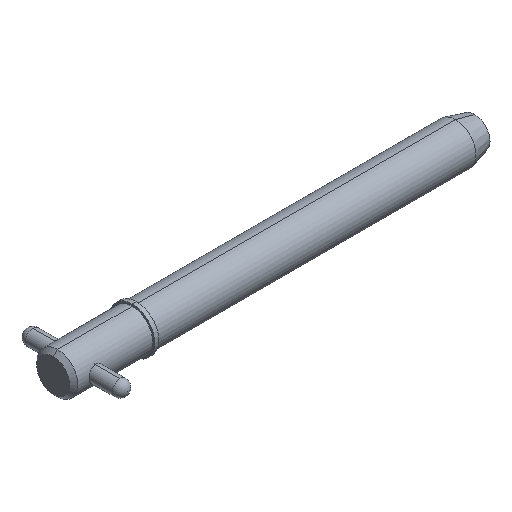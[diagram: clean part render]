
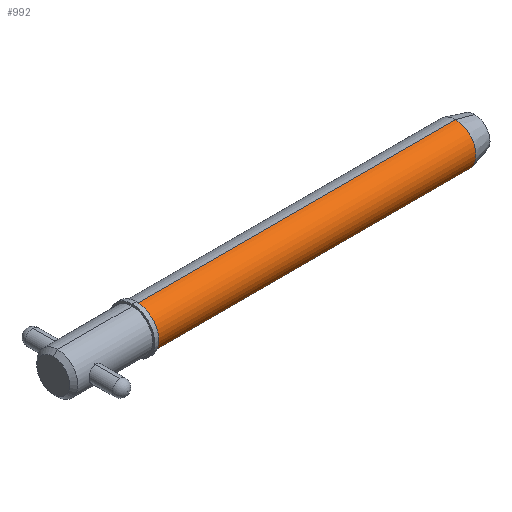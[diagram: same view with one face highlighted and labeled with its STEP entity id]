
A CAD part, isometric view. The second image highlights one B-rep face of the part: STEP entity #992.
In plain terms, the highlighted cylindrical face has radius 6.35 mm (diameter 12.7 mm), a partial arc.
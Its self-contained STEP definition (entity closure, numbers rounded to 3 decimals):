
#2 = ORIENTED_EDGE ( 'NONE', *, *, #110, .T. ) ;
#64 = DIRECTION ( 'NONE',  ( 0., 0., -1. ) ) ;
#92 = CARTESIAN_POINT ( 'NONE',  ( 0., 0., -6.35 ) ) ;
#106 = DIRECTION ( 'NONE',  ( 0., 0., -1. ) ) ;
#110 = EDGE_CURVE ( 'NONE', #272, #828, #713, .T. ) ;
#145 = FACE_OUTER_BOUND ( 'NONE', #545, .T. ) ;
#168 = CARTESIAN_POINT ( 'NONE',  ( 124.555, 0., -6.35 ) ) ;
#180 = EDGE_CURVE ( 'NONE', #904, #444, #608, .T. ) ;
#186 = ORIENTED_EDGE ( 'NONE', *, *, #474, .T. ) ;
#187 = DIRECTION ( 'NONE',  ( 1., 0., 0. ) ) ;
#230 = CYLINDRICAL_SURFACE ( 'NONE', #371, 6.35 ) ;
#266 = EDGE_CURVE ( 'NONE', #272, #904, #535, .T. ) ;
#272 = VERTEX_POINT ( 'NONE', #447 ) ;
#292 = ORIENTED_EDGE ( 'NONE', *, *, #266, .F. ) ;
#306 = VECTOR ( 'NONE', #451, 1000. ) ;
#371 = AXIS2_PLACEMENT_3D ( 'NONE', #468, #794, #64 ) ;
#444 = VERTEX_POINT ( 'NONE', #168 ) ;
#447 = CARTESIAN_POINT ( 'NONE',  ( 25.7, 0., 6.35 ) ) ;
#451 = DIRECTION ( 'NONE',  ( 1., 0., 0. ) ) ;
#454 = CARTESIAN_POINT ( 'NONE',  ( 124.555, 0., 6.35 ) ) ;
#468 = CARTESIAN_POINT ( 'NONE',  ( 0., 0., 0. ) ) ;
#471 = CARTESIAN_POINT ( 'NONE',  ( 0., 0., 6.35 ) ) ;
#474 = EDGE_CURVE ( 'NONE', #828, #444, #739, .T. ) ;
#535 = LINE ( 'NONE', #471, #306 ) ;
#545 = EDGE_LOOP ( 'NONE', ( #292, #2, #186, #950 ) ) ;
#580 = DIRECTION ( 'NONE',  ( 1., 0., 0. ) ) ;
#608 = CIRCLE ( 'NONE', #657, 6.35 ) ;
#647 = DIRECTION ( 'NONE',  ( 1., 0., 0. ) ) ;
#657 = AXIS2_PLACEMENT_3D ( 'NONE', #738, #580, #725 ) ;
#698 = CARTESIAN_POINT ( 'NONE',  ( 25.7, 0., -6.35 ) ) ;
#713 = CIRCLE ( 'NONE', #1023, 6.35 ) ;
#725 = DIRECTION ( 'NONE',  ( 0., 0., -1. ) ) ;
#738 = CARTESIAN_POINT ( 'NONE',  ( 124.555, 0., 0. ) ) ;
#739 = LINE ( 'NONE', #92, #902 ) ;
#794 = DIRECTION ( 'NONE',  ( 1., 0., 0. ) ) ;
#828 = VERTEX_POINT ( 'NONE', #698 ) ;
#902 = VECTOR ( 'NONE', #647, 1000. ) ;
#904 = VERTEX_POINT ( 'NONE', #454 ) ;
#950 = ORIENTED_EDGE ( 'NONE', *, *, #180, .F. ) ;
#992 = ADVANCED_FACE ( 'NONE', ( #145 ), #230, .T. ) ;
#995 = CARTESIAN_POINT ( 'NONE',  ( 25.7, 0., 0. ) ) ;
#1023 = AXIS2_PLACEMENT_3D ( 'NONE', #995, #187, #106 ) ;
